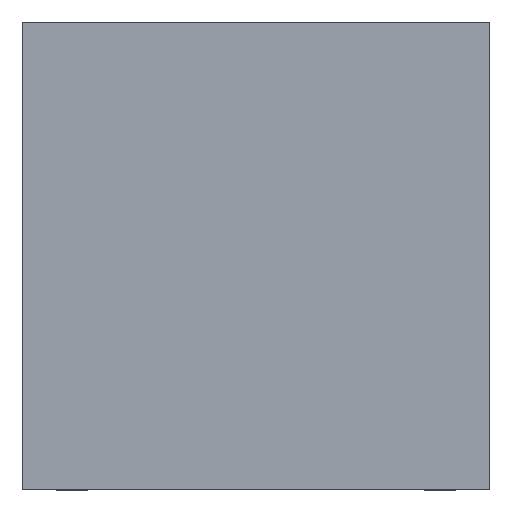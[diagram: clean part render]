
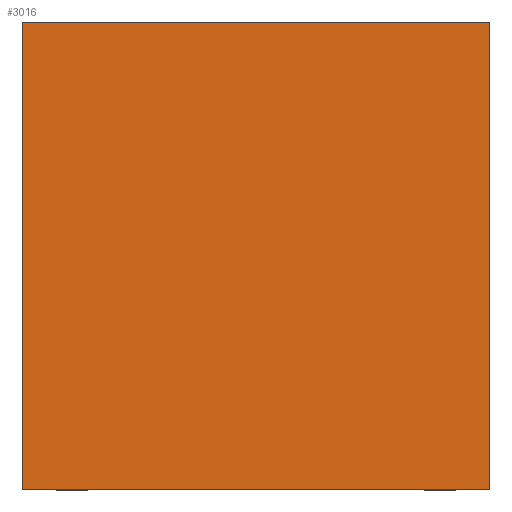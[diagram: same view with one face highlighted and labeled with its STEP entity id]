
A CAD part, top view. The second image highlights one B-rep face of the part: STEP entity #3016.
In plain terms, the highlighted free-form (B-spline) face has degree [1, 1] with [2, 2] control points.
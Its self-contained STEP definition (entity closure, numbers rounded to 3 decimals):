
#2918 = VERTEX_POINT('',#2919);
#2919 = CARTESIAN_POINT('',(-0.475,0.475,0.265));
#2924 = EDGE_CURVE('',#2925,#2918,#2927,.T.);
#2925 = VERTEX_POINT('',#2926);
#2926 = CARTESIAN_POINT('',(0.475,0.475,0.265));
#2927 = B_SPLINE_CURVE_WITH_KNOTS('',1,(#2928,#2929),.UNSPECIFIED.,.F.,
  .F.,(2,2),(0.,0.95),.PIECEWISE_BEZIER_KNOTS.);
#2928 = CARTESIAN_POINT('',(0.475,0.475,0.265));
#2929 = CARTESIAN_POINT('',(-0.475,0.475,0.265));
#2952 = VERTEX_POINT('',#2953);
#2953 = CARTESIAN_POINT('',(-0.475,-0.475,0.265));
#2958 = EDGE_CURVE('',#2918,#2952,#2959,.T.);
#2959 = B_SPLINE_CURVE_WITH_KNOTS('',1,(#2960,#2961),.UNSPECIFIED.,.F.,
  .F.,(2,2),(0.,0.95),.PIECEWISE_BEZIER_KNOTS.);
#2960 = CARTESIAN_POINT('',(-0.475,0.475,0.265));
#2961 = CARTESIAN_POINT('',(-0.475,-0.475,0.265));
#2980 = VERTEX_POINT('',#2981);
#2981 = CARTESIAN_POINT('',(0.475,-0.475,0.265));
#2986 = EDGE_CURVE('',#2952,#2980,#2987,.T.);
#2987 = B_SPLINE_CURVE_WITH_KNOTS('',1,(#2988,#2989),.UNSPECIFIED.,.F.,
  .F.,(2,2),(0.,0.95),.PIECEWISE_BEZIER_KNOTS.);
#2988 = CARTESIAN_POINT('',(-0.475,-0.475,0.265));
#2989 = CARTESIAN_POINT('',(0.475,-0.475,0.265));
#3006 = EDGE_CURVE('',#2980,#2925,#3007,.T.);
#3007 = B_SPLINE_CURVE_WITH_KNOTS('',1,(#3008,#3009),.UNSPECIFIED.,.F.,
  .F.,(2,2),(0.,0.95),.PIECEWISE_BEZIER_KNOTS.);
#3008 = CARTESIAN_POINT('',(0.475,-0.475,0.265));
#3009 = CARTESIAN_POINT('',(0.475,0.475,0.265));
#3016 = ADVANCED_FACE('',(#3017),#3023,.T.);
#3017 = FACE_BOUND('',#3018,.T.);
#3018 = EDGE_LOOP('',(#3019,#3020,#3021,#3022));
#3019 = ORIENTED_EDGE('',*,*,#2924,.T.);
#3020 = ORIENTED_EDGE('',*,*,#2958,.T.);
#3021 = ORIENTED_EDGE('',*,*,#2986,.T.);
#3022 = ORIENTED_EDGE('',*,*,#3006,.T.);
#3023 = B_SPLINE_SURFACE_WITH_KNOTS('',1,1,(
    (#3024,#3025)
    ,(#3026,#3027
  )),.UNSPECIFIED.,.F.,.F.,.F.,(2,2),(2,2),(-0.475,0.475),(-0.475,0.475)
  ,.PIECEWISE_BEZIER_KNOTS.);
#3024 = CARTESIAN_POINT('',(-0.475,0.475,0.265));
#3025 = CARTESIAN_POINT('',(0.475,0.475,0.265));
#3026 = CARTESIAN_POINT('',(-0.475,-0.475,0.265));
#3027 = CARTESIAN_POINT('',(0.475,-0.475,0.265));
